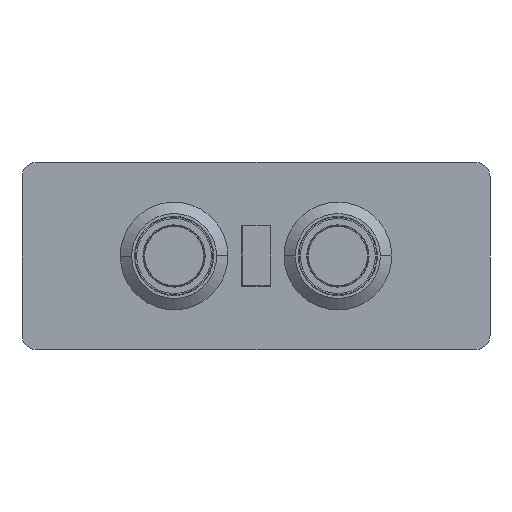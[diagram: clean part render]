
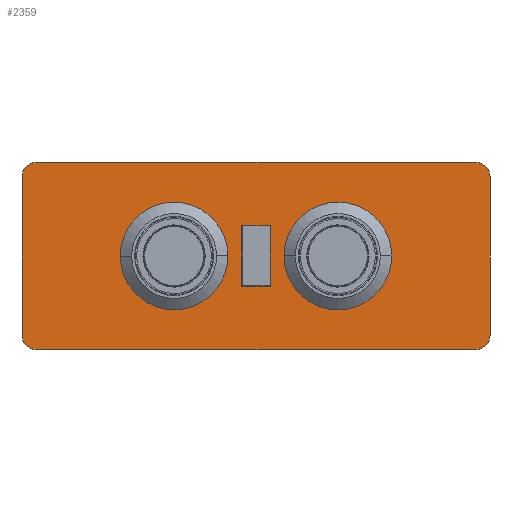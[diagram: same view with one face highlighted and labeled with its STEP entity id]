
A CAD part, front view. The second image highlights one B-rep face of the part: STEP entity #2359.
In plain terms, the highlighted planar face has unit normal (0, -1, 0).
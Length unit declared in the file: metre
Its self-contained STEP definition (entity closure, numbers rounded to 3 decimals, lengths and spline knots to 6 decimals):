
#82=CARTESIAN_POINT('',(-0.0183,-0.0275,-0.0339));
#83=DIRECTION('',(0.,1.,0.));
#84=DIRECTION('',(0.,0.,-1.));
#85=AXIS2_PLACEMENT_3D('',#82,#83,#84);
#87=CARTESIAN_POINT('',(-0.0183,-0.0275,-0.0001));
#88=DIRECTION('',(0.,1.,0.));
#89=DIRECTION('',(-1.,0.,0.));
#90=AXIS2_PLACEMENT_3D('',#87,#88,#89);
#92=CARTESIAN_POINT('',(0.0755,-0.0275,-0.0001));
#93=DIRECTION('',(0.,1.,0.));
#94=DIRECTION('',(0.,0.,1.));
#95=AXIS2_PLACEMENT_3D('',#92,#93,#94);
#97=CARTESIAN_POINT('',(0.0755,-0.0275,-0.0339));
#98=DIRECTION('',(0.,1.,0.));
#99=DIRECTION('',(1.,0.,0.));
#100=AXIS2_PLACEMENT_3D('',#97,#98,#99);
#102=DIRECTION('',(0.,0.,-1.));
#103=VECTOR('',#102,0.013);
#104=CARTESIAN_POINT('',(0.0256,-0.0275,-0.0105));
#105=LINE('',#104,#103);
#106=CARTESIAN_POINT('',(0.0461,-0.0275,-0.017));
#107=DIRECTION('',(0.,-1.,0.));
#108=DIRECTION('',(-1.,0.,0.));
#109=AXIS2_PLACEMENT_3D('',#106,#107,#108);
#111=CARTESIAN_POINT('',(0.0461,-0.0275,-0.017));
#112=DIRECTION('',(0.,-1.,0.));
#113=DIRECTION('',(1.,0.,0.));
#114=AXIS2_PLACEMENT_3D('',#111,#112,#113);
#116=CARTESIAN_POINT('',(0.0111,-0.0275,-0.017));
#117=DIRECTION('',(0.,-1.,0.));
#118=DIRECTION('',(1.,0.,0.015));
#119=AXIS2_PLACEMENT_3D('',#116,#117,#118);
#121=CARTESIAN_POINT('',(0.0111,-0.0275,-0.017));
#122=DIRECTION('',(0.,-1.,0.));
#123=DIRECTION('',(-1.,0.,-0.015));
#124=AXIS2_PLACEMENT_3D('',#121,#122,#123);
#126=DIRECTION('',(1.,0.,0.));
#127=VECTOR('',#126,0.0938);
#128=CARTESIAN_POINT('',(-0.0183,-0.0275,-0.037));
#129=LINE('',#128,#127);
#134=DIRECTION('',(0.,0.,1.));
#135=VECTOR('',#134,0.0338);
#136=CARTESIAN_POINT('',(0.0786,-0.0275,-0.0339));
#137=LINE('',#136,#135);
#146=DIRECTION('',(-1.,0.,0.));
#147=VECTOR('',#146,0.0938);
#148=CARTESIAN_POINT('',(0.0755,-0.0275,0.003));
#149=LINE('',#148,#147);
#158=DIRECTION('',(0.,0.,-1.));
#159=VECTOR('',#158,0.0338);
#160=CARTESIAN_POINT('',(-0.0214,-0.0275,-0.0001));
#161=LINE('',#160,#159);
#917=DIRECTION('',(1.,0.,0.));
#918=VECTOR('',#917,0.006);
#919=CARTESIAN_POINT('',(0.0256,-0.0275,-0.0105));
#920=LINE('',#919,#918);
#933=DIRECTION('',(0.,0.,-1.));
#934=VECTOR('',#933,0.013);
#935=CARTESIAN_POINT('',(0.0316,-0.0275,-0.0105));
#936=LINE('',#935,#934);
#945=DIRECTION('',(-1.,0.,0.));
#946=VECTOR('',#945,0.006);
#947=CARTESIAN_POINT('',(0.0316,-0.0275,-0.0235));
#948=LINE('',#947,#946);
#1772=CARTESIAN_POINT('',(0.0256,-0.0275,-0.0105));
#1773=CARTESIAN_POINT('',(0.0256,-0.0275,-0.0235));
#1774=VERTEX_POINT('',#1772);
#1775=VERTEX_POINT('',#1773);
#1780=CARTESIAN_POINT('',(-0.0183,-0.0275,-0.037));
#1781=CARTESIAN_POINT('',(-0.0214,-0.0275,-0.0339));
#1782=VERTEX_POINT('',#1780);
#1783=VERTEX_POINT('',#1781);
#1784=CARTESIAN_POINT('',(-0.0214,-0.0275,-0.0001));
#1785=CARTESIAN_POINT('',(-0.0183,-0.0275,0.003));
#1786=VERTEX_POINT('',#1784);
#1787=VERTEX_POINT('',#1785);
#1788=CARTESIAN_POINT('',(0.0755,-0.0275,0.003));
#1789=CARTESIAN_POINT('',(0.0786,-0.0275,-0.0001));
#1790=VERTEX_POINT('',#1788);
#1791=VERTEX_POINT('',#1789);
#1792=CARTESIAN_POINT('',(0.0786,-0.0275,-0.0339));
#1793=CARTESIAN_POINT('',(0.0755,-0.0275,-0.037));
#1794=VERTEX_POINT('',#1792);
#1795=VERTEX_POINT('',#1793);
#1796=CARTESIAN_POINT('',(0.0346,-0.0275,-0.017));
#1797=CARTESIAN_POINT('',(0.0576,-0.0275,-0.017));
#1798=VERTEX_POINT('',#1796);
#1799=VERTEX_POINT('',#1797);
#1800=CARTESIAN_POINT('',(0.022599,-0.0275,-0.016828));
#1801=CARTESIAN_POINT('',(-0.000399,-0.0275,-0.017172));
#1802=VERTEX_POINT('',#1800);
#1803=VERTEX_POINT('',#1801);
#1970=CARTESIAN_POINT('',(0.0316,-0.0275,-0.0235));
#1971=VERTEX_POINT('',#1970);
#1974=CARTESIAN_POINT('',(0.0316,-0.0275,-0.0105));
#1975=VERTEX_POINT('',#1974);
#2315=CARTESIAN_POINT('',(0.0286,-0.0275,-0.017));
#2316=DIRECTION('',(0.,1.,0.));
#2317=DIRECTION('',(-1.,0.,0.));
#2318=AXIS2_PLACEMENT_3D('',#2315,#2316,#2317);
#2319=PLANE('',#2318);
#2321=ORIENTED_EDGE('',*,*,#2320,.F.);
#2323=ORIENTED_EDGE('',*,*,#2322,.T.);
#2325=ORIENTED_EDGE('',*,*,#2324,.F.);
#2327=ORIENTED_EDGE('',*,*,#2326,.T.);
#2329=ORIENTED_EDGE('',*,*,#2328,.F.);
#2331=ORIENTED_EDGE('',*,*,#2330,.T.);
#2333=ORIENTED_EDGE('',*,*,#2332,.F.);
#2335=ORIENTED_EDGE('',*,*,#2334,.T.);
#2336=EDGE_LOOP('',(#2321,#2323,#2325,#2327,#2329,#2331,#2333,#2335));
#2337=FACE_OUTER_BOUND('',#2336,.F.);
#2339=ORIENTED_EDGE('',*,*,#2338,.T.);
#2341=ORIENTED_EDGE('',*,*,#2340,.F.);
#2343=ORIENTED_EDGE('',*,*,#2342,.F.);
#2345=ORIENTED_EDGE('',*,*,#2344,.F.);
#2346=EDGE_LOOP('',(#2339,#2341,#2343,#2345));
#2347=FACE_BOUND('',#2346,.F.);
#2349=ORIENTED_EDGE('',*,*,#2348,.T.);
#2351=ORIENTED_EDGE('',*,*,#2350,.T.);
#2352=EDGE_LOOP('',(#2349,#2351));
#2353=FACE_BOUND('',#2352,.F.);
#2354=ORIENTED_EDGE('',*,*,#2305,.T.);
#2356=ORIENTED_EDGE('',*,*,#2355,.T.);
#2357=EDGE_LOOP('',(#2354,#2356));
#2358=FACE_BOUND('',#2357,.F.);
#2359=ADVANCED_FACE('',(#2337,#2347,#2353,#2358),#2319,.F.);
#86=CIRCLE('',#85,0.0031);
#91=CIRCLE('',#90,0.0031);
#96=CIRCLE('',#95,0.0031);
#101=CIRCLE('',#100,0.0031);
#110=CIRCLE('',#109,0.0115);
#115=CIRCLE('',#114,0.0115);
#120=CIRCLE('',#119,0.0115);
#125=CIRCLE('',#124,0.0115);
#2305=EDGE_CURVE('',#1802,#1803,#120,.T.);
#2320=EDGE_CURVE('',#1782,#1795,#129,.T.);
#2322=EDGE_CURVE('',#1782,#1783,#86,.T.);
#2324=EDGE_CURVE('',#1786,#1783,#161,.T.);
#2326=EDGE_CURVE('',#1786,#1787,#91,.T.);
#2328=EDGE_CURVE('',#1790,#1787,#149,.T.);
#2330=EDGE_CURVE('',#1790,#1791,#96,.T.);
#2332=EDGE_CURVE('',#1794,#1791,#137,.T.);
#2334=EDGE_CURVE('',#1794,#1795,#101,.T.);
#2338=EDGE_CURVE('',#1774,#1775,#105,.T.);
#2340=EDGE_CURVE('',#1971,#1775,#948,.T.);
#2342=EDGE_CURVE('',#1975,#1971,#936,.T.);
#2344=EDGE_CURVE('',#1774,#1975,#920,.T.);
#2348=EDGE_CURVE('',#1798,#1799,#110,.T.);
#2350=EDGE_CURVE('',#1799,#1798,#115,.T.);
#2355=EDGE_CURVE('',#1803,#1802,#125,.T.);
